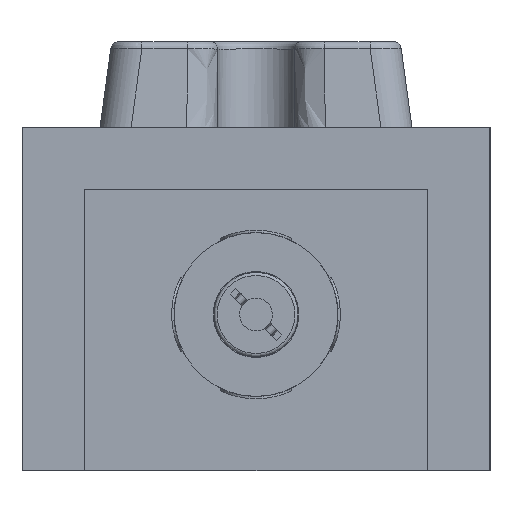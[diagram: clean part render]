
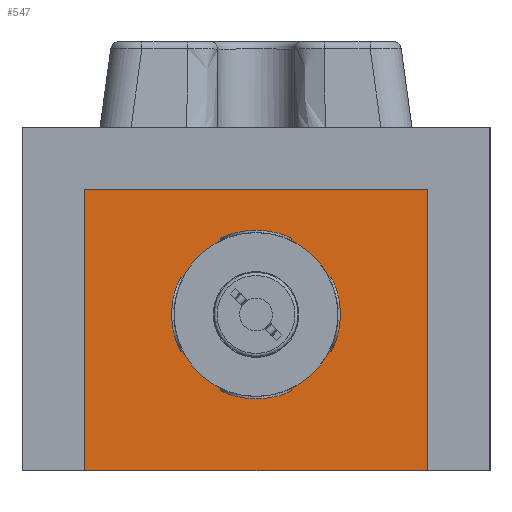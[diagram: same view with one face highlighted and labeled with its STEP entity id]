
A CAD part, left-side view. The second image highlights one B-rep face of the part: STEP entity #547.
In plain terms, the highlighted planar face has unit normal (-1, 0, 0).
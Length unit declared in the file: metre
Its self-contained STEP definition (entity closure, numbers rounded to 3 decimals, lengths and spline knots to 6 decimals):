
#547=ADVANCED_FACE('39:11187',(#1506,#1507),#1508,.T.);
#1506=FACE_BOUND('',#2950,.T.);
#1507=FACE_OUTER_BOUND('',#2951,.T.);
#1508=PLANE('',#2952);
#2950=EDGE_LOOP('',(#5503));
#2951=EDGE_LOOP('',(#5504,#5505,#5506,#5507));
#2952=AXIS2_PLACEMENT_3D('',#5508,#5509,#5510);
#5503=ORIENTED_EDGE('',*,*,#8775,.F.);
#5504=ORIENTED_EDGE('',*,*,#8776,.T.);
#5505=ORIENTED_EDGE('',*,*,#8777,.F.);
#5506=ORIENTED_EDGE('',*,*,#8778,.F.);
#5507=ORIENTED_EDGE('',*,*,#8700,.T.);
#5508=CARTESIAN_POINT('',(-0.04999,0.011,0.018));
#5509=DIRECTION('',(-1.0,0.0,0.0));
#5510=DIRECTION('',(0.0,0.0,1.0));
#8700=EDGE_CURVE('39:12795',#10085,#10083,#10086,.T.);
#8775=EDGE_CURVE('39:12801',#10230,#10230,#10231,.T.);
#8776=EDGE_CURVE('39:12780',#10083,#10232,#10233,.T.);
#8777=EDGE_CURVE('39:12783',#10234,#10232,#10235,.T.);
#8778=EDGE_CURVE('39:12786',#10085,#10234,#10236,.T.);
#10083=VERTEX_POINT('',#12190);
#10085=VERTEX_POINT('',#12193);
#10086=LINE('',#12194,#12195);
#10230=VERTEX_POINT('',#12359);
#10231=CIRCLE('',#12360,0.00225);
#10232=VERTEX_POINT('',#12361);
#10233=LINE('',#12362,#12363);
#10234=VERTEX_POINT('',#12364);
#10235=LINE('',#12365,#12366);
#10236=LINE('',#12367,#12368);
#12190=CARTESIAN_POINT('',(-0.04999,0.01099,0.018));
#12193=CARTESIAN_POINT('',(-0.04999,-0.01099,0.018));
#12194=CARTESIAN_POINT('',(-0.04999,0.0,0.018));
#12195=VECTOR('',#15303,1.0);
#12359=CARTESIAN_POINT('',(-0.04999,-0.00225,0.01));
#12360=AXIS2_PLACEMENT_3D('',#15474,#15475,#15476);
#12361=CARTESIAN_POINT('',(-0.04999,0.01099,0.));
#12362=CARTESIAN_POINT('',(-0.04999,0.01099,0.018));
#12363=VECTOR('',#15477,1.0);
#12364=CARTESIAN_POINT('',(-0.04999,-0.01099,0.));
#12365=CARTESIAN_POINT('',(-0.04999,0.0,0.));
#12366=VECTOR('',#15478,1.0);
#12367=CARTESIAN_POINT('',(-0.04999,-0.01099,0.018));
#12368=VECTOR('',#15479,1.0);
#15303=DIRECTION('',(0.0,1.0,0.0));
#15474=CARTESIAN_POINT('',(-0.04999,0.,0.01));
#15475=DIRECTION('',(-1.0,0.0,0.0));
#15476=DIRECTION('',(0.0,-1.0,0.0));
#15477=DIRECTION('',(0.0,0.0,-1.0));
#15478=DIRECTION('',(0.0,1.0,0.0));
#15479=DIRECTION('',(0.0,0.0,-1.0));
